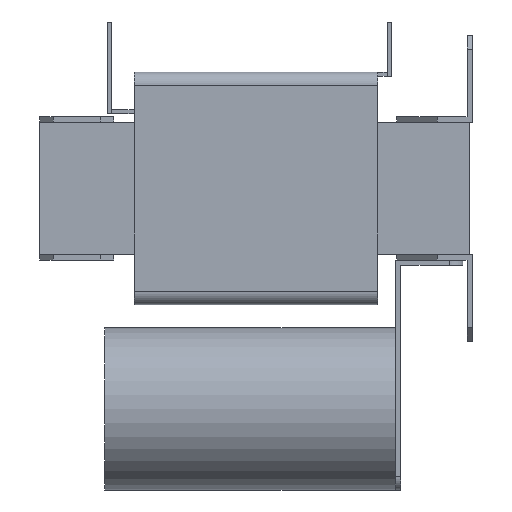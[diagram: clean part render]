
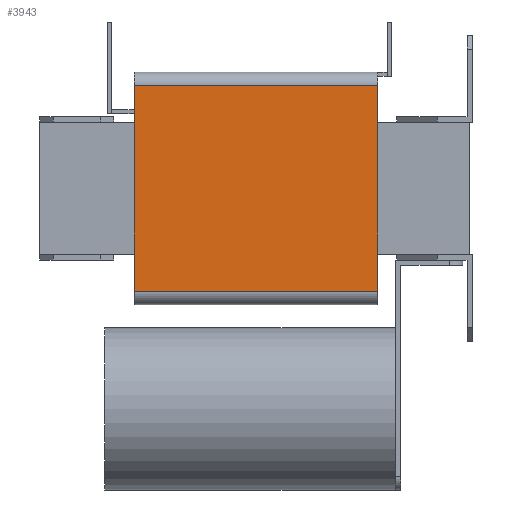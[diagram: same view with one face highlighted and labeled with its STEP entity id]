
A CAD part, left-side view. The second image highlights one B-rep face of the part: STEP entity #3943.
In plain terms, the highlighted planar face has unit normal (-1, 0, 0).
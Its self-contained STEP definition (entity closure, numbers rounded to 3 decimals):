
#329=FACE_OUTER_BOUND('',#575,.T.);
#575=EDGE_LOOP('',(#3039,#3040,#3041,#3042));
#903=LINE('',#6010,#1359);
#908=LINE('',#6029,#1364);
#912=LINE('',#6043,#1368);
#915=LINE('',#6049,#1371);
#1359=VECTOR('',#4886,10.);
#1364=VECTOR('',#4903,10.);
#1368=VECTOR('',#4915,10.);
#1371=VECTOR('',#4924,10.);
#1791=VERTEX_POINT('',#6008);
#1792=VERTEX_POINT('',#6009);
#1800=VERTEX_POINT('',#6027);
#1806=VERTEX_POINT('',#6041);
#2231=EDGE_CURVE('',#1791,#1792,#903,.T.);
#2241=EDGE_CURVE('',#1800,#1791,#908,.T.);
#2248=EDGE_CURVE('',#1800,#1806,#912,.T.);
#2251=EDGE_CURVE('',#1792,#1806,#915,.T.);
#3039=ORIENTED_EDGE('',*,*,#2241,.F.);
#3040=ORIENTED_EDGE('',*,*,#2248,.T.);
#3041=ORIENTED_EDGE('',*,*,#2251,.F.);
#3042=ORIENTED_EDGE('',*,*,#2231,.F.);
#3733=PLANE('',#4274);
#3943=ADVANCED_FACE('',(#329),#3733,.T.);
#4274=AXIS2_PLACEMENT_3D('',#6055,#4932,#4933);
#4886=DIRECTION('',(0.,0.,1.));
#4903=DIRECTION('',(0.,1.,0.));
#4915=DIRECTION('',(0.,0.,1.));
#4924=DIRECTION('',(0.,-1.,0.));
#4932=DIRECTION('center_axis',(-1.,0.,0.));
#4933=DIRECTION('ref_axis',(0.,0.,1.));
#6008=CARTESIAN_POINT('',(-176.,250.,-76.));
#6009=CARTESIAN_POINT('',(-176.,250.,76.));
#6010=CARTESIAN_POINT('',(-176.,250.,-76.));
#6027=CARTESIAN_POINT('',(-176.,70.,-76.));
#6029=CARTESIAN_POINT('',(-176.,70.,-76.));
#6041=CARTESIAN_POINT('',(-176.,70.,76.));
#6043=CARTESIAN_POINT('',(-176.,70.,-86.));
#6049=CARTESIAN_POINT('',(-176.,70.,76.));
#6055=CARTESIAN_POINT('Origin',(-176.,70.,-86.));
